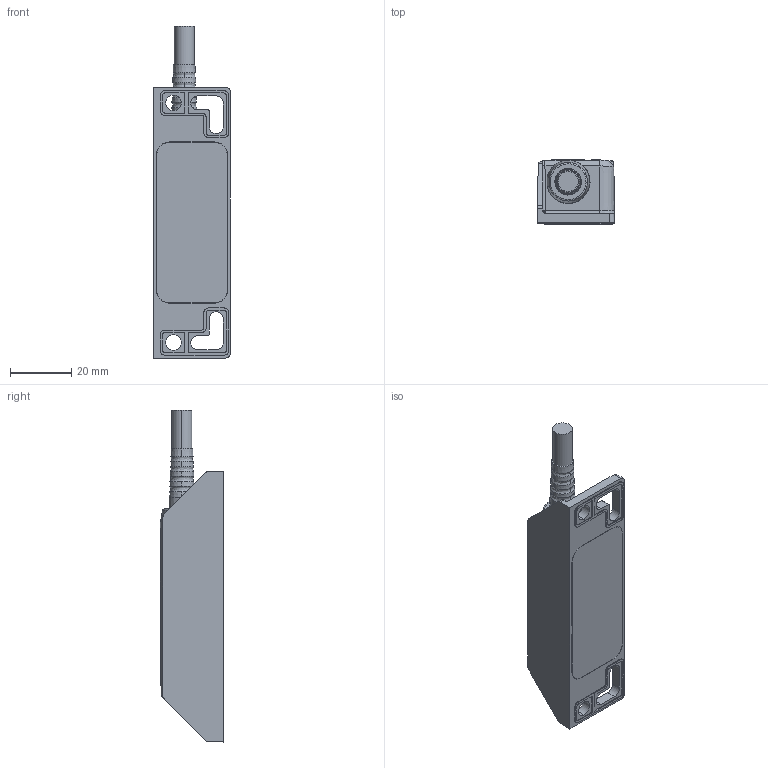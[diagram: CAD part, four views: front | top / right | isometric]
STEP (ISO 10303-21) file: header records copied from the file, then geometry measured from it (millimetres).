
FILE_DESCRIPTION (( 'STEP AP214' ), '1' );
FILE_NAME ('SENSAGUARD2.STEP', '2007-05-17T06:19:17', ( 'me' ), ( '' ), 'SwSTEP 2.0', 'SolidWorks 2007', '' );
FILE_SCHEMA (( 'AUTOMOTIVE_DESIGN' ));
Length unit declared in the file: inch
Products named in the file (1): SENSAGUARD2
Bounding box: 24.99 x 20.78 x 108.02 mm (x, y, z)
Surface area: 10779.1 mm2 (no closed solid volume)
Topology: 0 solids, 51 shells, 458 faces, 1375 edges, 972 vertices
Faces by surface type: plane 235, bspline 110, cylinder 88, cone 25
Entity records: 44524 total; most frequent: CARTESIAN_POINT 27194, ORIENTED_EDGE 2245, DIRECTION 2010, EDGE_CURVE 1375, VERTEX_POINT 972, LINE 892, VECTOR 892, AXIS2_PLACEMENT_3D 559
